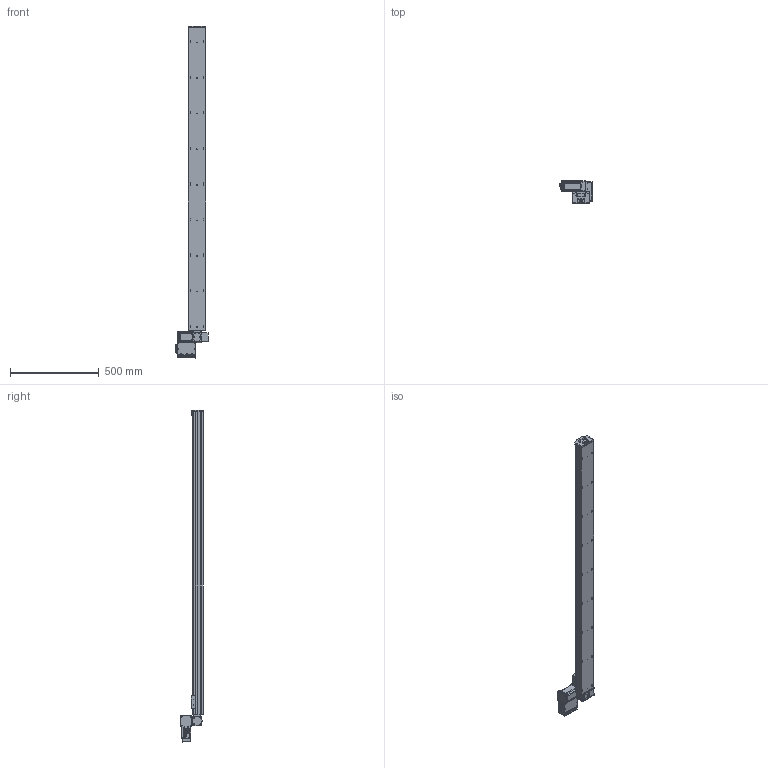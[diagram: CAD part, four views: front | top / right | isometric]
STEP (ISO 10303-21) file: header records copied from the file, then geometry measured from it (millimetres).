
FILE_DESCRIPTION (( 'STEP AP203' ), '1' );
FILE_NAME ('S10 TBN LT S1700.STEP', '2012-06-19T09:52:06', ( 'Conseil Régional Haute-Normandie' ), ( 'Conseil Régional Haute-Normandie' ), 'SwSTEP 2.0', 'SolidWorks 2010', '' );
FILE_SCHEMA (( 'CONFIG_CONTROL_DESIGN' ));
Length unit declared in the file: millimetre
Products named in the file (29): Assem1_7; Moteur 60BLDC90A_3; BU45 Carte d''axe A11_5; Couvercle_3; Radiateur profil_X2_00E9_X0_ 100x25_3; Colonnette ronde_3; Cvis M5 L30_Default; cache t皻e_Default; embout; Vis M5 L16-2_Default_1; vis M5 L12_Default; S10 TBN LT S1700; T_X2_00F4_X0_le contre le moteur_5; BU41 Carte Alimentation P05_3; Colonnette_3; T_X2_00F4_X0_le fond_3; Connecteur rond D10 3cts_5; Connecteur rond D12 4cts_5; Sub D 9cts 90_X2_00B_X0__3; T_X2_00F4_X0_le Arri_X2_00E8_X0_re_5; T_X2_00F4_X0_le lat_X2_00E9_X0_rale_5; Vis TF 3 torkx_1_1; cache t皻e axe_Default; palette tbn; plaque de bout s10_Default; Plaque racord_Default; renvoi LH_Default; vis M5 L5_Default; axe 1700
Assembly tree (62 placements, depth 3):
  S10 TBN LT S1700
    vis M5 L5_Default  x4
    cache t皻e_Default  x2
    Vis M5 L16-2_Default_1  x4
    Assem1_7
      Moteur 60BLDC90A_3
      T_X2_00F4_X0_le lat_X2_00E9_X0_rale_5  x2
      BU41 Carte Alimentation P05_3
      Colonnette ronde_3
      Vis TF 3 torkx_1_1  x21
      T_X2_00F4_X0_le contre le moteur_5
      Radiateur profil_X2_00E9_X0_ 100x25_3
      T_X2_00F4_X0_le fond_3
      Colonnette_3  x2
      Sub D 9cts 90_X2_00B_X0__3
      Connecteur rond D10 3cts_5  x2
      Connecteur rond D12 4cts_5
      T_X2_00F4_X0_le Arri_X2_00E8_X0_re_5
      BU45 Carte d''axe A11_5
      Couvercle_3
    cache t皻e axe_Default
    vis M5 L12_Default  x4
    Cvis M5 L30_Default  x2
    renvoi LH_Default
    palette tbn
    Plaque racord_Default
    axe 1700
    embout
    plaque de bout s10_Default
Bounding box: 189.8 x 127 x 1866.5 mm (x, y, z)
Volume: 9634537.4 mm3; surface area: 1114190.4 mm2
Topology: 61 solids, 61 shells, 2312 faces, 5733 edges, 3702 vertices
Faces by surface type: plane 1099, cylinder 996, cone 174, bspline 40, torus 3
Entity records: 48144 total; most frequent: CARTESIAN_POINT 8685, DIRECTION 7778, ORIENTED_EDGE 7062, EDGE_CURVE 3531, AXIS2_PLACEMENT_3D 2894, VERTEX_POINT 2306, LINE 1990, VECTOR 1990
